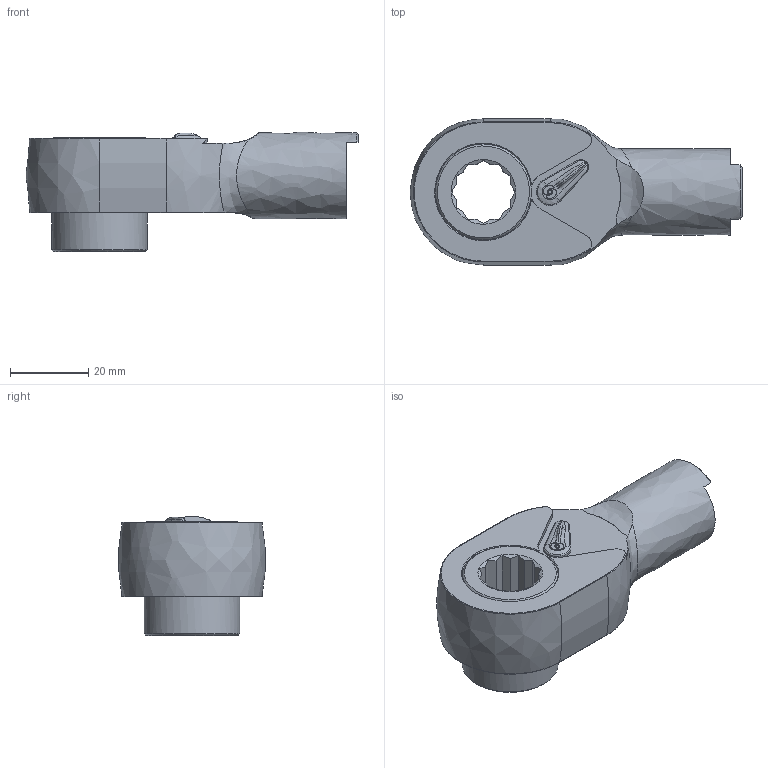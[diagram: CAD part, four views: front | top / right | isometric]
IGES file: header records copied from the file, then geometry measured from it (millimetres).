
Global section: file name: RQH15DX14; native system: Autodesk Inventor 2017; preprocessor: unknown; author: q603; date: 20170209.104628; units: millimetre
Bounding box: 84.75 x 37.3 x 30.4 mm (x, y, z)
Volume: 38583.2 mm3; surface area: 11009.6 mm2
Topology: 1 solids, 1 shells, 130 faces, 360 edges, 227 vertices
Faces by surface type: bspline 130
